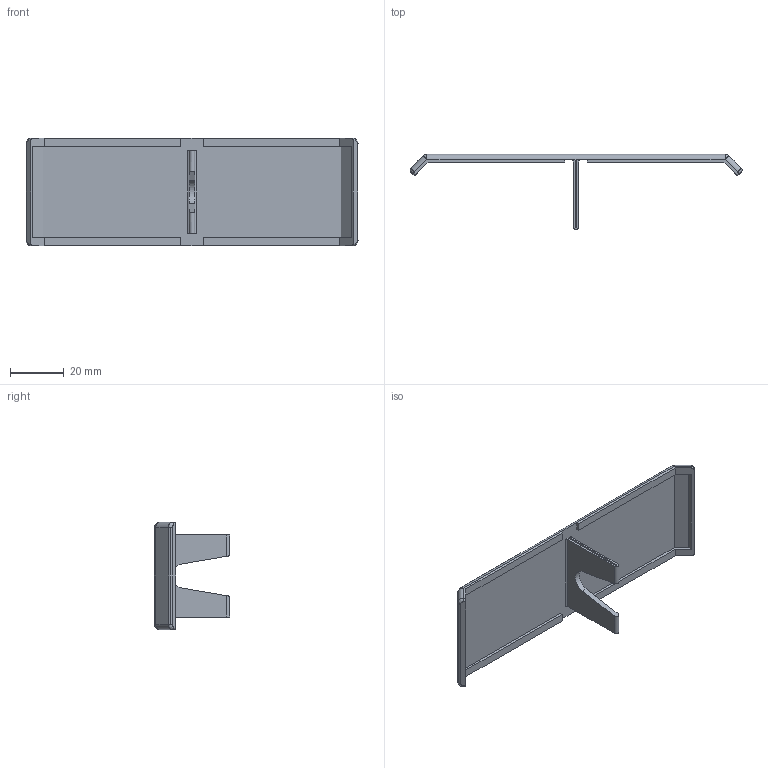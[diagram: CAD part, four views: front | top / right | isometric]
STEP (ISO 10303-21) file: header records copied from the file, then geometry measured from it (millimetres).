
FILE_DESCRIPTION (( 'STEP AP214' ), '1' );
FILE_NAME ('1.1041 Päätysuoja kulmalle 45X90.STEP', '2025-09-03T09:06:27', ( '' ), ( '' ), 'SwSTEP 2.0', 'SolidWorks 2025', '' );
FILE_SCHEMA (( 'AUTOMOTIVE_DESIGN' ));
Length unit declared in the file: millimetre
Products named in the file (1): 1.1041 Päätysuoja kulmalle 45X90
Bounding box: 123.41 x 28 x 40 mm (x, y, z)
Volume: 11823.3 mm3; surface area: 12585.5 mm2
Topology: 1 solids, 1 shells, 194 faces, 509 edges, 330 vertices
Faces by surface type: plane 131, bspline 41, cylinder 20, cone 2
Entity records: 7475 total; most frequent: CARTESIAN_POINT 2916, ORIENTED_EDGE 1018, DIRECTION 787, EDGE_CURVE 509, VECTOR 395, LINE 395, VERTEX_POINT 330, EDGE_LOOP 207
